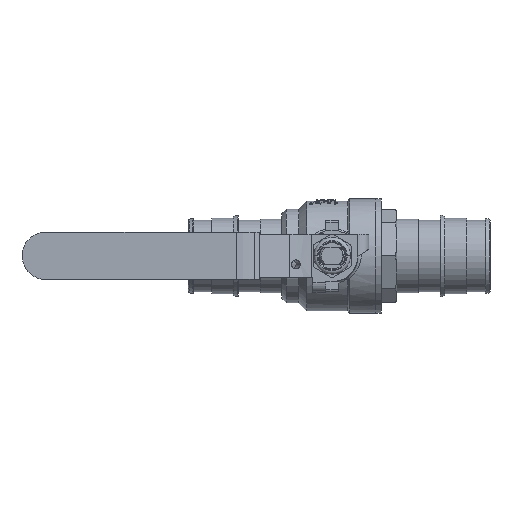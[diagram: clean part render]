
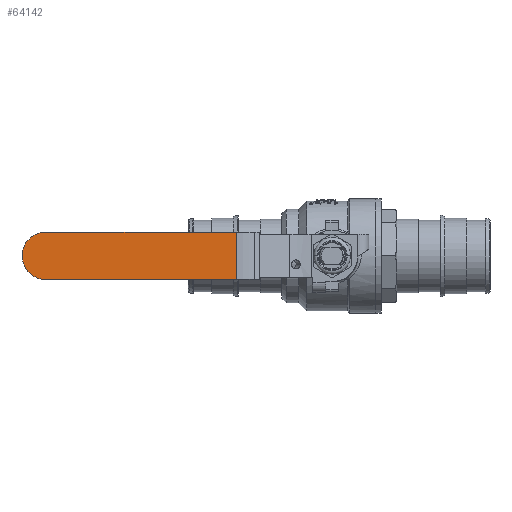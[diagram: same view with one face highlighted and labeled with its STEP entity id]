
A CAD part, top view. The second image highlights one B-rep face of the part: STEP entity #64142.
In plain terms, the highlighted planar face has unit normal (0, 0, 1).
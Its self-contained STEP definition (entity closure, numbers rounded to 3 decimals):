
#63596 = VERTEX_POINT('',#63597);
#63597 = CARTESIAN_POINT('',(-44.412,-11.,62.6));
#63607 = CYLINDRICAL_SURFACE('',#63608,17.);
#63608 = AXIS2_PLACEMENT_3D('',#63609,#63610,#63611);
#63609 = CARTESIAN_POINT('',(-44.412,11.,45.6));
#63610 = DIRECTION('',(0.,-1.,0.));
#63611 = DIRECTION('',(1.,0.,0.));
#63619 = PLANE('',#63620);
#63620 = AXIS2_PLACEMENT_3D('',#63621,#63622,#63623);
#63621 = CARTESIAN_POINT('',(-44.412,-11.,45.6));
#63622 = DIRECTION('',(0.,1.,0.));
#63623 = DIRECTION('',(-1.,0.,0.));
#63660 = VERTEX_POINT('',#63661);
#63661 = CARTESIAN_POINT('',(-44.412,11.,62.6));
#63676 = PLANE('',#63677);
#63677 = AXIS2_PLACEMENT_3D('',#63678,#63679,#63680);
#63678 = CARTESIAN_POINT('',(-44.412,11.,45.6));
#63679 = DIRECTION('',(0.,1.,0.));
#63680 = DIRECTION('',(-1.,0.,0.));
#63688 = EDGE_CURVE('',#63660,#63596,#63689,.T.);
#63689 = SURFACE_CURVE('',#63690,(#63694,#63701),.PCURVE_S1.);
#63690 = LINE('',#63691,#63692);
#63691 = CARTESIAN_POINT('',(-44.412,11.,62.6));
#63692 = VECTOR('',#63693,1.);
#63693 = DIRECTION('',(0.,-1.,0.));
#63694 = PCURVE('',#63607,#63695);
#63695 = DEFINITIONAL_REPRESENTATION('',(#63696),#63700);
#63696 = LINE('',#63697,#63698);
#63697 = CARTESIAN_POINT('',(1.571,0.));
#63698 = VECTOR('',#63699,1.);
#63699 = DIRECTION('',(0.,1.));
#63700 = ( GEOMETRIC_REPRESENTATION_CONTEXT(2) 
PARAMETRIC_REPRESENTATION_CONTEXT() REPRESENTATION_CONTEXT('2D SPACE',''
  ) );
#63701 = PCURVE('',#63702,#63707);
#63702 = PLANE('',#63703);
#63703 = AXIS2_PLACEMENT_3D('',#63704,#63705,#63706);
#63704 = CARTESIAN_POINT('',(-44.412,11.,62.6));
#63705 = DIRECTION('',(0.,0.,-1.));
#63706 = DIRECTION('',(0.,-1.,0.));
#63707 = DEFINITIONAL_REPRESENTATION('',(#63708),#63712);
#63708 = LINE('',#63709,#63710);
#63709 = CARTESIAN_POINT('',(0.,-0.));
#63710 = VECTOR('',#63711,1.);
#63711 = DIRECTION('',(1.,0.));
#63712 = ( GEOMETRIC_REPRESENTATION_CONTEXT(2) 
PARAMETRIC_REPRESENTATION_CONTEXT() REPRESENTATION_CONTEXT('2D SPACE',''
  ) );
#64076 = CYLINDRICAL_SURFACE('',#64077,11.);
#64077 = AXIS2_PLACEMENT_3D('',#64078,#64079,#64080);
#64078 = CARTESIAN_POINT('',(-132.958,0.,62.6));
#64079 = DIRECTION('',(0.,0.,1.));
#64080 = DIRECTION('',(0.,1.,0.));
#64109 = CYLINDRICAL_SURFACE('',#64110,11.);
#64110 = AXIS2_PLACEMENT_3D('',#64111,#64112,#64113);
#64111 = CARTESIAN_POINT('',(-132.958,0.,45.6));
#64112 = DIRECTION('',(0.,0.,-1.));
#64113 = DIRECTION('',(0.,-1.,0.));
#64142 = ADVANCED_FACE('',(#64143),#63702,.F.);
#64143 = FACE_BOUND('',#64144,.T.);
#64144 = EDGE_LOOP('',(#64145,#64175,#64203,#64224,#64225));
#64145 = ORIENTED_EDGE('',*,*,#64146,.T.);
#64146 = EDGE_CURVE('',#64147,#64149,#64151,.T.);
#64147 = VERTEX_POINT('',#64148);
#64148 = CARTESIAN_POINT('',(-132.958,11.,62.6));
#64149 = VERTEX_POINT('',#64150);
#64150 = CARTESIAN_POINT('',(-143.958,0.,62.6));
#64151 = SURFACE_CURVE('',#64152,(#64157,#64168),.PCURVE_S1.);
#64152 = CIRCLE('',#64153,11.);
#64153 = AXIS2_PLACEMENT_3D('',#64154,#64155,#64156);
#64154 = CARTESIAN_POINT('',(-132.958,0.,62.6));
#64155 = DIRECTION('',(0.,0.,1.));
#64156 = DIRECTION('',(0.,-1.,0.));
#64157 = PCURVE('',#63702,#64158);
#64158 = DEFINITIONAL_REPRESENTATION('',(#64159),#64167);
#64159 = ( BOUNDED_CURVE() B_SPLINE_CURVE(2,(#64160,#64161,#64162,#64163
    ,#64164,#64165,#64166),.UNSPECIFIED.,.T.,.F.) 
B_SPLINE_CURVE_WITH_KNOTS((1,2,2,2,2,1),(-2.094,0.,
    2.094,4.189,6.283,8.378),
.UNSPECIFIED.) CURVE() GEOMETRIC_REPRESENTATION_ITEM() 
RATIONAL_B_SPLINE_CURVE((1.,0.5,1.,0.5,1.,0.5,1.)) REPRESENTATION_ITEM(
  '') );
#64160 = CARTESIAN_POINT('',(22.,88.546));
#64161 = CARTESIAN_POINT('',(22.,69.493));
#64162 = CARTESIAN_POINT('',(5.5,79.019));
#64163 = CARTESIAN_POINT('',(-11.,88.546));
#64164 = CARTESIAN_POINT('',(5.5,98.072));
#64165 = CARTESIAN_POINT('',(22.,107.598));
#64166 = CARTESIAN_POINT('',(22.,88.546));
#64167 = ( GEOMETRIC_REPRESENTATION_CONTEXT(2) 
PARAMETRIC_REPRESENTATION_CONTEXT() REPRESENTATION_CONTEXT('2D SPACE',''
  ) );
#64168 = PCURVE('',#64109,#64169);
#64169 = DEFINITIONAL_REPRESENTATION('',(#64170),#64174);
#64170 = LINE('',#64171,#64172);
#64171 = CARTESIAN_POINT('',(6.283,-17.));
#64172 = VECTOR('',#64173,1.);
#64173 = DIRECTION('',(-1.,0.));
#64174 = ( GEOMETRIC_REPRESENTATION_CONTEXT(2) 
PARAMETRIC_REPRESENTATION_CONTEXT() REPRESENTATION_CONTEXT('2D SPACE',''
  ) );
#64175 = ORIENTED_EDGE('',*,*,#64176,.T.);
#64176 = EDGE_CURVE('',#64149,#64177,#64179,.T.);
#64177 = VERTEX_POINT('',#64178);
#64178 = CARTESIAN_POINT('',(-132.958,-11.,62.6));
#64179 = SURFACE_CURVE('',#64180,(#64185,#64196),.PCURVE_S1.);
#64180 = CIRCLE('',#64181,11.);
#64181 = AXIS2_PLACEMENT_3D('',#64182,#64183,#64184);
#64182 = CARTESIAN_POINT('',(-132.958,0.,62.6));
#64183 = DIRECTION('',(0.,0.,1.));
#64184 = DIRECTION('',(0.,-1.,0.));
#64185 = PCURVE('',#63702,#64186);
#64186 = DEFINITIONAL_REPRESENTATION('',(#64187),#64195);
#64187 = ( BOUNDED_CURVE() B_SPLINE_CURVE(2,(#64188,#64189,#64190,#64191
    ,#64192,#64193,#64194),.UNSPECIFIED.,.T.,.F.) 
B_SPLINE_CURVE_WITH_KNOTS((1,2,2,2,2,1),(-2.094,0.,
    2.094,4.189,6.283,8.378),
.UNSPECIFIED.) CURVE() GEOMETRIC_REPRESENTATION_ITEM() 
RATIONAL_B_SPLINE_CURVE((1.,0.5,1.,0.5,1.,0.5,1.)) REPRESENTATION_ITEM(
  '') );
#64188 = CARTESIAN_POINT('',(22.,88.546));
#64189 = CARTESIAN_POINT('',(22.,69.493));
#64190 = CARTESIAN_POINT('',(5.5,79.019));
#64191 = CARTESIAN_POINT('',(-11.,88.546));
#64192 = CARTESIAN_POINT('',(5.5,98.072));
#64193 = CARTESIAN_POINT('',(22.,107.598));
#64194 = CARTESIAN_POINT('',(22.,88.546));
#64195 = ( GEOMETRIC_REPRESENTATION_CONTEXT(2) 
PARAMETRIC_REPRESENTATION_CONTEXT() REPRESENTATION_CONTEXT('2D SPACE',''
  ) );
#64196 = PCURVE('',#64076,#64197);
#64197 = DEFINITIONAL_REPRESENTATION('',(#64198),#64202);
#64198 = LINE('',#64199,#64200);
#64199 = CARTESIAN_POINT('',(-3.142,0.));
#64200 = VECTOR('',#64201,1.);
#64201 = DIRECTION('',(1.,0.));
#64202 = ( GEOMETRIC_REPRESENTATION_CONTEXT(2) 
PARAMETRIC_REPRESENTATION_CONTEXT() REPRESENTATION_CONTEXT('2D SPACE',''
  ) );
#64203 = ORIENTED_EDGE('',*,*,#64204,.T.);
#64204 = EDGE_CURVE('',#64177,#63596,#64205,.T.);
#64205 = SURFACE_CURVE('',#64206,(#64210,#64217),.PCURVE_S1.);
#64206 = LINE('',#64207,#64208);
#64207 = CARTESIAN_POINT('',(-44.412,-11.,62.6));
#64208 = VECTOR('',#64209,1.);
#64209 = DIRECTION('',(1.,0.,0.));
#64210 = PCURVE('',#63702,#64211);
#64211 = DEFINITIONAL_REPRESENTATION('',(#64212),#64216);
#64212 = LINE('',#64213,#64214);
#64213 = CARTESIAN_POINT('',(22.,0.));
#64214 = VECTOR('',#64215,1.);
#64215 = DIRECTION('',(0.,-1.));
#64216 = ( GEOMETRIC_REPRESENTATION_CONTEXT(2) 
PARAMETRIC_REPRESENTATION_CONTEXT() REPRESENTATION_CONTEXT('2D SPACE',''
  ) );
#64217 = PCURVE('',#63619,#64218);
#64218 = DEFINITIONAL_REPRESENTATION('',(#64219),#64223);
#64219 = LINE('',#64220,#64221);
#64220 = CARTESIAN_POINT('',(0.,17.));
#64221 = VECTOR('',#64222,1.);
#64222 = DIRECTION('',(-1.,0.));
#64223 = ( GEOMETRIC_REPRESENTATION_CONTEXT(2) 
PARAMETRIC_REPRESENTATION_CONTEXT() REPRESENTATION_CONTEXT('2D SPACE',''
  ) );
#64224 = ORIENTED_EDGE('',*,*,#63688,.F.);
#64225 = ORIENTED_EDGE('',*,*,#64226,.F.);
#64226 = EDGE_CURVE('',#64147,#63660,#64227,.T.);
#64227 = SURFACE_CURVE('',#64228,(#64232,#64239),.PCURVE_S1.);
#64228 = LINE('',#64229,#64230);
#64229 = CARTESIAN_POINT('',(-44.412,11.,62.6));
#64230 = VECTOR('',#64231,1.);
#64231 = DIRECTION('',(1.,0.,0.));
#64232 = PCURVE('',#63702,#64233);
#64233 = DEFINITIONAL_REPRESENTATION('',(#64234),#64238);
#64234 = LINE('',#64235,#64236);
#64235 = CARTESIAN_POINT('',(0.,-0.));
#64236 = VECTOR('',#64237,1.);
#64237 = DIRECTION('',(0.,-1.));
#64238 = ( GEOMETRIC_REPRESENTATION_CONTEXT(2) 
PARAMETRIC_REPRESENTATION_CONTEXT() REPRESENTATION_CONTEXT('2D SPACE',''
  ) );
#64239 = PCURVE('',#63676,#64240);
#64240 = DEFINITIONAL_REPRESENTATION('',(#64241),#64245);
#64241 = LINE('',#64242,#64243);
#64242 = CARTESIAN_POINT('',(0.,17.));
#64243 = VECTOR('',#64244,1.);
#64244 = DIRECTION('',(-1.,0.));
#64245 = ( GEOMETRIC_REPRESENTATION_CONTEXT(2) 
PARAMETRIC_REPRESENTATION_CONTEXT() REPRESENTATION_CONTEXT('2D SPACE',''
  ) );
